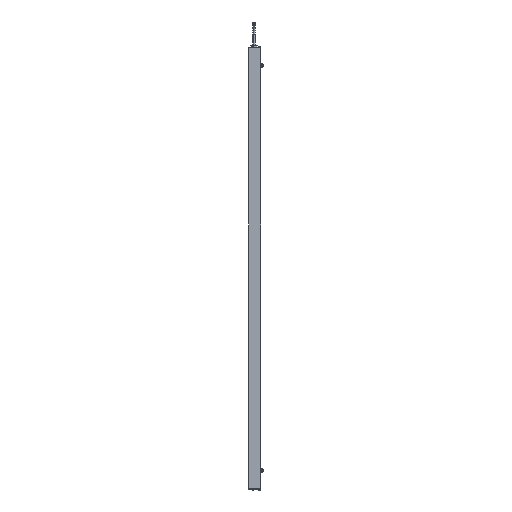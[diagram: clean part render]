
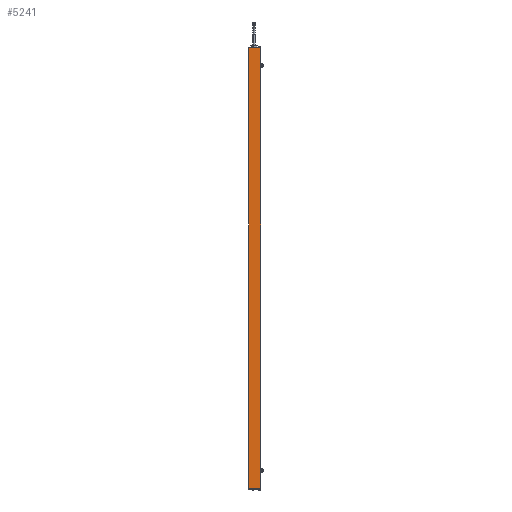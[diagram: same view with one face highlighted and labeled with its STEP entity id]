
A CAD part, left-side view. The second image highlights one B-rep face of the part: STEP entity #5241.
In plain terms, the highlighted planar face has unit normal (-1, 0, 0).
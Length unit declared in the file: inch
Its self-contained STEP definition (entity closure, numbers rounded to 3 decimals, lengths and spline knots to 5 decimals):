
#444 = DIRECTION ( 'NONE',  ( 0., 0., 1. ) ) ;
#750 = VECTOR ( 'NONE', #10383, 39.37008 ) ;
#2681 = VECTOR ( 'NONE', #444, 39.37008 ) ;
#2811 = ORIENTED_EDGE ( 'NONE', *, *, #12342, .T. ) ;
#2871 = CARTESIAN_POINT ( 'NONE',  ( -0.665, 0.015, 20.1375 ) ) ;
#3460 = VERTEX_POINT ( 'NONE', #11105 ) ;
#3550 = CARTESIAN_POINT ( 'NONE',  ( -0.665, 0., -20.1375 ) ) ;
#4218 = VECTOR ( 'NONE', #8126, 39.37008 ) ;
#4722 = EDGE_CURVE ( 'NONE', #11552, #6897, #6478, .T. ) ;
#5200 = ORIENTED_EDGE ( 'NONE', *, *, #16948, .F. ) ;
#5241 = ADVANCED_FACE ( 'NONE', ( #15678 ), #12215, .F. ) ;
#6423 = AXIS2_PLACEMENT_3D ( 'NONE', #18089, #12076, #6556 ) ;
#6460 = VECTOR ( 'NONE', #10766, 39.37008 ) ;
#6478 = LINE ( 'NONE', #7549, #2681 ) ;
#6556 = DIRECTION ( 'NONE',  ( 0., 0., -1. ) ) ;
#6897 = VERTEX_POINT ( 'NONE', #2871 ) ;
#7161 = EDGE_LOOP ( 'NONE', ( #5200, #2811, #14065, #12307 ) ) ;
#7549 = CARTESIAN_POINT ( 'NONE',  ( -0.665, 0.015, 20.1375 ) ) ;
#7856 = CARTESIAN_POINT ( 'NONE',  ( -0.665, 1.105, -20.1375 ) ) ;
#8062 = LINE ( 'NONE', #3550, #4218 ) ;
#8126 = DIRECTION ( 'NONE',  ( 0., -1., 0. ) ) ;
#10383 = DIRECTION ( 'NONE',  ( 0., 0., -1. ) ) ;
#10664 = LINE ( 'NONE', #13252, #750 ) ;
#10766 = DIRECTION ( 'NONE',  ( 0., -1., 0. ) ) ;
#10900 = CARTESIAN_POINT ( 'NONE',  ( -0.665, 0.015, -20.1375 ) ) ;
#11105 = CARTESIAN_POINT ( 'NONE',  ( -0.665, 1.105, 20.1375 ) ) ;
#11552 = VERTEX_POINT ( 'NONE', #10900 ) ;
#11900 = LINE ( 'NONE', #14787, #6460 ) ;
#12076 = DIRECTION ( 'NONE',  ( 1., 0., 0. ) ) ;
#12215 = PLANE ( 'NONE',  #6423 ) ;
#12307 = ORIENTED_EDGE ( 'NONE', *, *, #4722, .T. ) ;
#12342 = EDGE_CURVE ( 'NONE', #3460, #16935, #10664, .T. ) ;
#13252 = CARTESIAN_POINT ( 'NONE',  ( -0.665, 1.105, 20.1375 ) ) ;
#14065 = ORIENTED_EDGE ( 'NONE', *, *, #16987, .T. ) ;
#14787 = CARTESIAN_POINT ( 'NONE',  ( -0.665, 0., 20.1375 ) ) ;
#15678 = FACE_OUTER_BOUND ( 'NONE', #7161, .T. ) ;
#16935 = VERTEX_POINT ( 'NONE', #7856 ) ;
#16948 = EDGE_CURVE ( 'NONE', #3460, #6897, #11900, .T. ) ;
#16987 = EDGE_CURVE ( 'NONE', #16935, #11552, #8062, .T. ) ;
#18089 = CARTESIAN_POINT ( 'NONE',  ( -0.665, 0., 20.1375 ) ) ;
